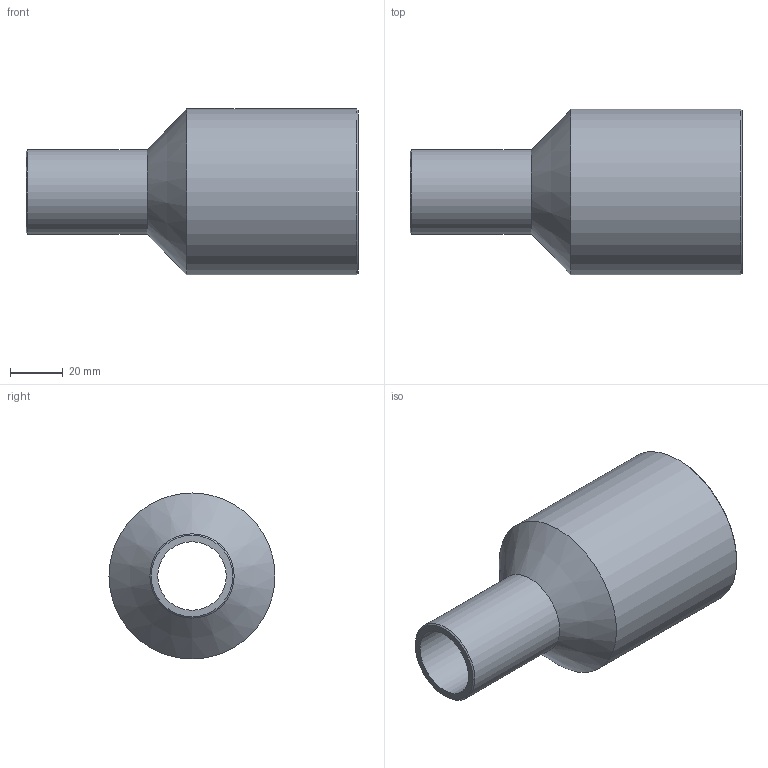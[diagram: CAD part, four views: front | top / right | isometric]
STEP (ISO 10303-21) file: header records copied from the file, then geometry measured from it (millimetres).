
FILE_DESCRIPTION(/* description */ ('Unknown'),/* implementation_level */ '2;1');
FILE_NAME(/* name */ 'RP063032C',/* time_stamp */ '2021-09-17T14:59:12+02:00',/* author */ ('Unknown'),/* organization */ ('Unknown'),/* preprocessor_version */ 'ST-DEVELOPER v16.7',/* originating_system */ 'Solid Edge',/* authorisation */ 'Unknown');
FILE_SCHEMA (('AUTOMOTIVE_DESIGN {1 0 10303 214 3 1 1}'));
Length unit declared in the file: millimetre
Products named in the file (1): RP063032C
Bounding box: 126 x 63 x 63 mm (x, y, z)
Volume: 97418 mm3; surface area: 38126.7 mm2
Topology: 1 solids, 1 shells, 10 faces, 19 edges, 11 vertices
Faces by surface type: cylinder 4, cone 4, plane 2
Full cylindrical faces by diameter (mm): 26 x1, 32 x1, 51.4 x1, 63 x1
Entity records: 238 total; most frequent: DIRECTION 42, CARTESIAN_POINT 31, AXIS2_PLACEMENT_3D 21, ORIENTED_EDGE 20, EDGE_LOOP 20, FACE_BOUND 20, EDGE_CURVE 10, VERTEX_POINT 10
